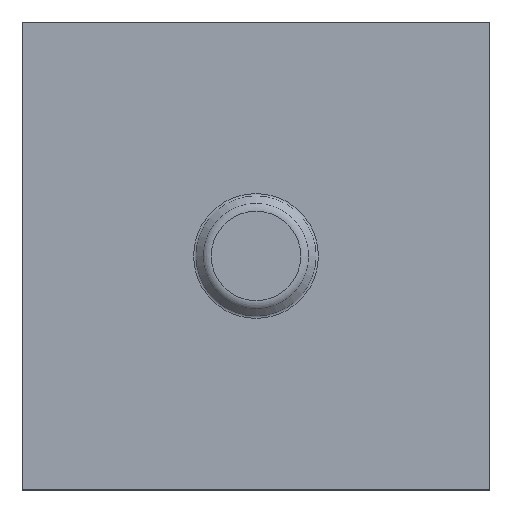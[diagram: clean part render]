
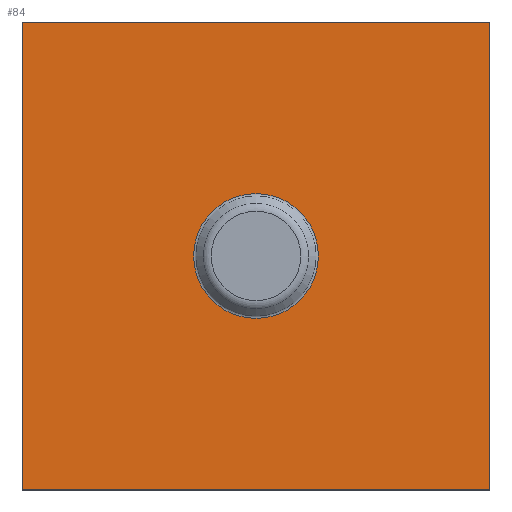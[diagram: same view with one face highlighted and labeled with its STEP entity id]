
A CAD part, top view. The second image highlights one B-rep face of the part: STEP entity #84.
In plain terms, the highlighted planar face has unit normal (0, 0, 1).
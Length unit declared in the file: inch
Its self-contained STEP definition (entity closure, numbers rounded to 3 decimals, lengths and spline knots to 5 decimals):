
#84=ADVANCED_FACE('',(#115,#116),#117,.F.);
#115=FACE_OUTER_BOUND('',#151,.T.);
#116=FACE_BOUND('',#152,.T.);
#117=PLANE('',#153);
#151=EDGE_LOOP('',(#208,#209,#210,#211));
#152=EDGE_LOOP('',(#212));
#153=AXIS2_PLACEMENT_3D('',#213,#214,#215);
#208=ORIENTED_EDGE('',*,*,#256,.T.);
#209=ORIENTED_EDGE('',*,*,#257,.T.);
#210=ORIENTED_EDGE('',*,*,#258,.T.);
#211=ORIENTED_EDGE('',*,*,#259,.T.);
#212=ORIENTED_EDGE('',*,*,#255,.F.);
#213=CARTESIAN_POINT('',(-1.24065,-0.51097,0.982));
#214=DIRECTION('',(0.,0.0,-1.0));
#215=DIRECTION('',(-1.0,0.0,0.));
#255=EDGE_CURVE('',#286,#286,#287,.T.);
#256=EDGE_CURVE('',#288,#289,#290,.T.);
#257=EDGE_CURVE('',#289,#291,#292,.T.);
#258=EDGE_CURVE('',#291,#293,#294,.T.);
#259=EDGE_CURVE('',#293,#288,#295,.T.);
#286=VERTEX_POINT('',#326);
#287=CIRCLE('',#327,0.26671);
#288=VERTEX_POINT('',#328);
#289=VERTEX_POINT('',#329);
#290=LINE('',#330,#331);
#291=VERTEX_POINT('',#332);
#292=LINE('',#333,#334);
#293=VERTEX_POINT('',#335);
#294=LINE('',#336,#337);
#295=LINE('',#338,#339);
#326=CARTESIAN_POINT('',(-1.50736,-0.51097,0.982));
#327=AXIS2_PLACEMENT_3D('',#373,#374,#375);
#328=CARTESIAN_POINT('',(-2.24065,0.48903,0.982));
#329=CARTESIAN_POINT('',(-2.24065,-1.51097,0.982));
#330=CARTESIAN_POINT('',(-2.24065,-0.51097,0.982));
#331=VECTOR('',#376,1.0);
#332=CARTESIAN_POINT('',(-0.24065,-1.51097,0.982));
#333=CARTESIAN_POINT('',(-1.24065,-1.51097,0.982));
#334=VECTOR('',#377,1.0);
#335=CARTESIAN_POINT('',(-0.24065,0.48903,0.982));
#336=CARTESIAN_POINT('',(-0.24065,-0.51097,0.982));
#337=VECTOR('',#378,1.0);
#338=CARTESIAN_POINT('',(-1.24065,0.48903,0.982));
#339=VECTOR('',#379,1.0);
#373=CARTESIAN_POINT('',(-1.24065,-0.51097,0.982));
#374=DIRECTION('',(0.,-0.0,1.0));
#375=DIRECTION('',(1.0,0.0,0.));
#376=DIRECTION('',(-0.0,-1.0,0.0));
#377=DIRECTION('',(1.0,0.0,0.));
#378=DIRECTION('',(0.0,1.0,0.0));
#379=DIRECTION('',(-1.0,0.0,0.));
